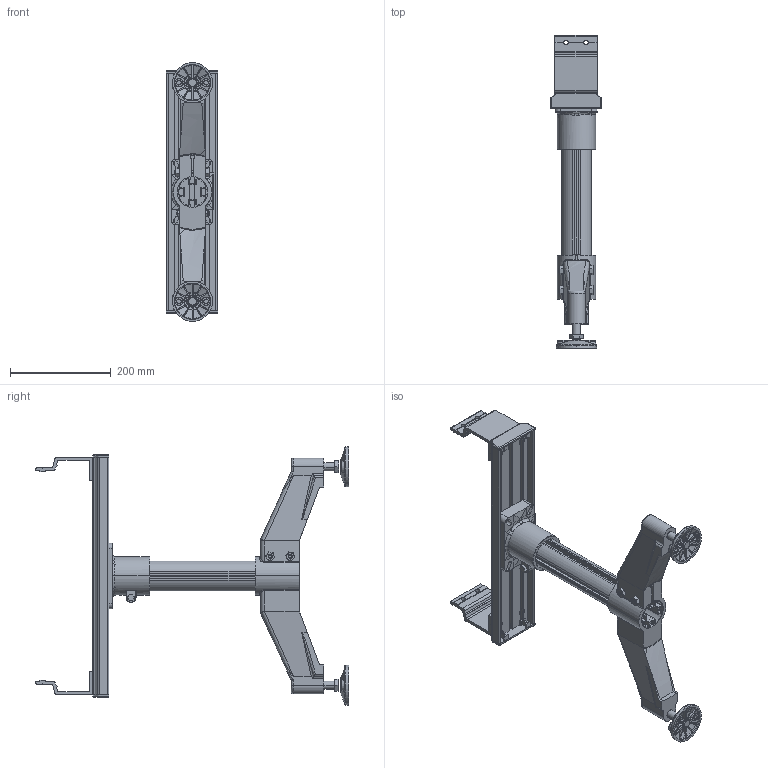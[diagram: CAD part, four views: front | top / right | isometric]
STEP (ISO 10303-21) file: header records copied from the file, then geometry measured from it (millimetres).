
FILE_DESCRIPTION (( 'STEP AP214' ), '1' );
FILE_NAME ('F2-1500-P2.STEP', '2010-03-11T09:05:35', ( '.' ), ( '' ), 'SwSTEP 2.0', 'SolidWorks 2009', '' );
FILE_SCHEMA (( 'AUTOMOTIVE_DESIGN' ));
Length unit declared in the file: millimetre
Products named in the file (1): F2-1500-P2
Bounding box: 102 x 623.16 x 514.6 mm (x, y, z)
Surface area: 706780.4 mm2 (no closed solid volume)
Topology: 0 solids, 16 shells, 995 faces, 3211 edges, 2124 vertices
Faces by surface type: plane 433, cylinder 289, bspline 94, cone 92, torus 63, sphere 24
Entity records: 60136 total; most frequent: CARTESIAN_POINT 22378, ORIENTED_EDGE 5612, DIRECTION 5272, EDGE_CURVE 3209, VERTEX_POINT 2124, AXIS2_PLACEMENT_3D 1901, VECTOR 1470, LINE 1470
